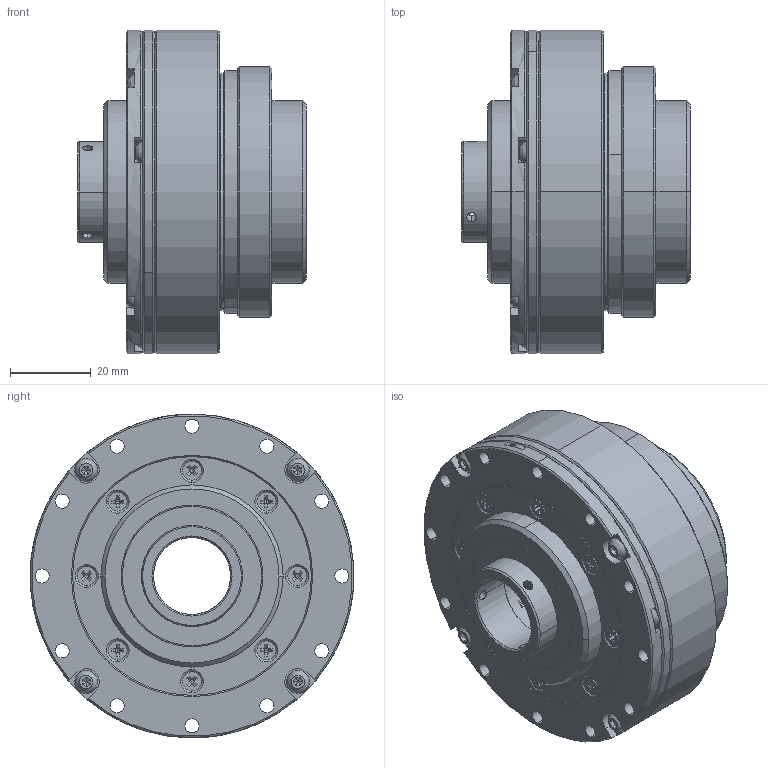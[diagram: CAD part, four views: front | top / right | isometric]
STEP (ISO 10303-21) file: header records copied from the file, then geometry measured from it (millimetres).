
FILE_DESCRIPTION (( 'STEP AP203' ), '1' );
FILE_NAME ('LHSG-17-XXX-CL-III.step', '2025-01-07T07:24:23', ( '' ), ( '' ), 'SwSTEP 2.0', 'SolidWorks 2023', '' );
FILE_SCHEMA (( 'CONFIG_CONTROL_DESIGN' ));
Length unit declared in the file: metre
Products named in the file (1): LHSG-17-XXX-CL-III
Bounding box: 56.5 x 80 x 80 mm (x, y, z)
Volume: 124314.2 mm3; surface area: 112762.6 mm2
Topology: 62 solids, 62 shells, 1918 faces, 5180 edges, 3212 vertices
Faces by surface type: cylinder 604, plane 541, bspline 474, cone 299
Entity records: 71599 total; most frequent: CARTESIAN_POINT 25870, ORIENTED_EDGE 10012, DIRECTION 9111, EDGE_CURVE 5006, AXIS2_PLACEMENT_3D 3785, VERTEX_POINT 3212, CIRCLE 2340, EDGE_LOOP 2292
